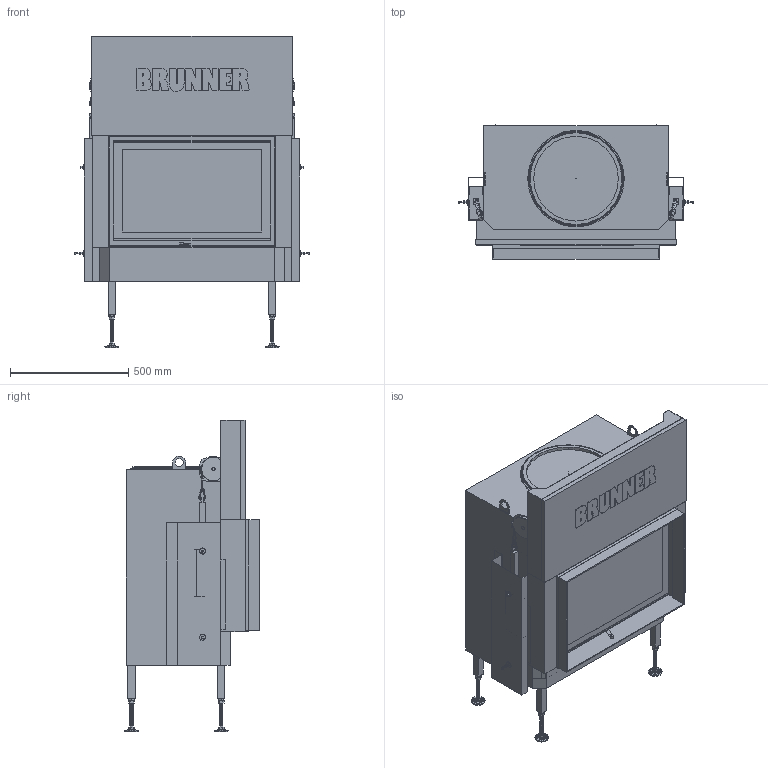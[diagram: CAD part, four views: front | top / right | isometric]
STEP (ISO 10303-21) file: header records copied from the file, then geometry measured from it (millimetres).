
FILE_DESCRIPTION(('Open CASCADE Model'),'2;1');
FILE_NAME('Open CASCADE Shape Model','2024-02-07T16:11:58',('Author'),( 'Open CASCADE'),'Open CASCADE STEP processor 7.7','Open CASCADE 7.7' ,'Unknown');
FILE_SCHEMA(('AUTOMOTIVE_DESIGN { 1 0 10303 214 1 1 1 1 }'));
Products named in the file (6): BKH flach 42-66 ST Guss; Dummy Hitzeschutzblech; Dummy Katalysator; Dummy Kuppel; Dummy Luftanschlussbox; BKH flach 42-66 ST Anbaurahmen
Bounding box: 994 x 570 x 1319.77 mm (x, y, z)
Volume: 165700319.8 mm3; surface area: 14878608.6 mm2
Topology: 89 solids, 89 shells, 6512 faces, 13175 edges, 6859 vertices
Faces by surface type: plane 6512
Entity records: 330348 total; most frequent: CARTESIAN_POINT 52897, DIRECTION 52551, LINE 39525, VECTOR 39525, ORIENTED_EDGE 26350, PCURVE 26350, DEFINITIONAL_REPRESENTATION 26350, EDGE_CURVE 13175
